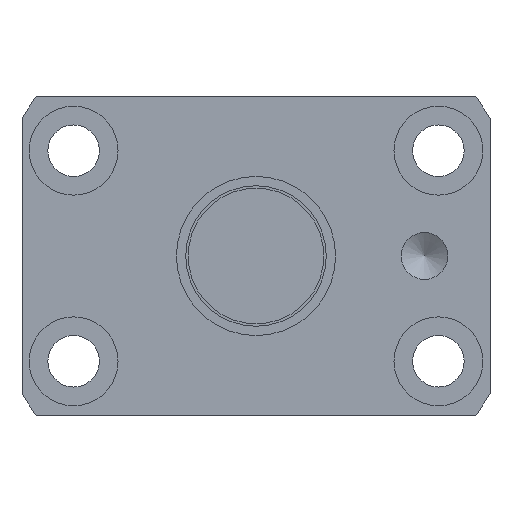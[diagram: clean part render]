
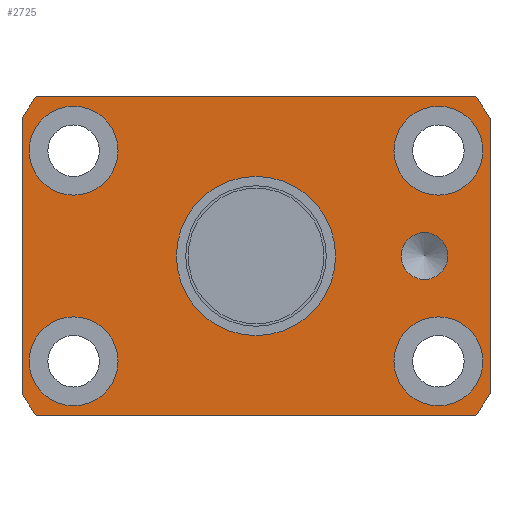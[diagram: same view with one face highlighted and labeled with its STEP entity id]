
A CAD part, left-side view. The second image highlights one B-rep face of the part: STEP entity #2725.
In plain terms, the highlighted planar face has unit normal (-1, 0, 0).
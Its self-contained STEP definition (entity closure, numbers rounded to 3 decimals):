
#6 = DIRECTION ( 'NONE',  ( 1., 0., 0. ) ) ;
#55 = CARTESIAN_POINT ( 'NONE',  ( 0., 19.486, 11.25 ) ) ;
#66 = EDGE_LOOP ( 'NONE', ( #2332 ) ) ;
#84 = AXIS2_PLACEMENT_3D ( 'NONE', #3165, #826, #2719 ) ;
#96 = CIRCLE ( 'NONE', #269, 8.5 ) ;
#118 = ORIENTED_EDGE ( 'NONE', *, *, #514, .F. ) ;
#134 = CARTESIAN_POINT ( 'NONE',  ( 0., 25., -14.697 ) ) ;
#189 = EDGE_CURVE ( 'NONE', #1209, #2256, #1595, .T. ) ;
#203 = EDGE_LOOP ( 'NONE', ( #3087 ) ) ;
#211 = CARTESIAN_POINT ( 'NONE',  ( 0., -14.736, 11.25 ) ) ;
#212 = EDGE_CURVE ( 'NONE', #785, #2198, #1858, .T. ) ;
#242 = CARTESIAN_POINT ( 'NONE',  ( 0., 0., 0. ) ) ;
#269 = AXIS2_PLACEMENT_3D ( 'NONE', #3282, #1770, #3032 ) ;
#279 = ORIENTED_EDGE ( 'NONE', *, *, #2192, .F. ) ;
#318 = AXIS2_PLACEMENT_3D ( 'NONE', #3109, #6, #3043 ) ;
#387 = CARTESIAN_POINT ( 'NONE',  ( 0., 19.486, -11.25 ) ) ;
#431 = DIRECTION ( 'NONE',  ( 0., 0., 1. ) ) ;
#461 = CARTESIAN_POINT ( 'NONE',  ( 0., 25., 14.697 ) ) ;
#497 = LINE ( 'NONE', #1506, #2458 ) ;
#514 = EDGE_CURVE ( 'NONE', #2198, #2122, #1490, .T. ) ;
#525 = CARTESIAN_POINT ( 'NONE',  ( 0., -14.736, -11.25 ) ) ;
#538 = LINE ( 'NONE', #3306, #2671 ) ;
#559 = CARTESIAN_POINT ( 'NONE',  ( 0., 24.236, -11.25 ) ) ;
#571 = DIRECTION ( 'NONE',  ( 0., 0., -1. ) ) ;
#586 = EDGE_CURVE ( 'NONE', #1847, #1847, #2776, .T. ) ;
#592 = ORIENTED_EDGE ( 'NONE', *, *, #189, .F. ) ;
#631 = ORIENTED_EDGE ( 'NONE', *, *, #952, .F. ) ;
#675 = VECTOR ( 'NONE', #1301, 1000. ) ;
#695 = AXIS2_PLACEMENT_3D ( 'NONE', #703, #3026, #718 ) ;
#703 = CARTESIAN_POINT ( 'NONE',  ( 0., 0., 0. ) ) ;
#710 = CARTESIAN_POINT ( 'NONE',  ( 0., 12.75, 0. ) ) ;
#718 = DIRECTION ( 'NONE',  ( 0., 1., 0. ) ) ;
#730 = ORIENTED_EDGE ( 'NONE', *, *, #2665, .F. ) ;
#780 = FACE_BOUND ( 'NONE', #1557, .T. ) ;
#785 = VERTEX_POINT ( 'NONE', #134 ) ;
#805 = CARTESIAN_POINT ( 'NONE',  ( 0., -25., -14.697 ) ) ;
#821 = EDGE_CURVE ( 'NONE', #1064, #1064, #1964, .T. ) ;
#826 = DIRECTION ( 'NONE',  ( 1., 0., 0. ) ) ;
#843 = CARTESIAN_POINT ( 'NONE',  ( 0., -18., 2.5 ) ) ;
#865 = EDGE_LOOP ( 'NONE', ( #1410 ) ) ;
#918 = DIRECTION ( 'NONE',  ( -1., 0., 0. ) ) ;
#938 = ORIENTED_EDGE ( 'NONE', *, *, #212, .F. ) ;
#952 = EDGE_CURVE ( 'NONE', #1431, #1289, #538, .T. ) ;
#958 = FACE_OUTER_BOUND ( 'NONE', #1836, .T. ) ;
#973 = CARTESIAN_POINT ( 'NONE',  ( 0., 0., 0. ) ) ;
#1011 = DIRECTION ( 'NONE',  ( 0., 0., 1. ) ) ;
#1025 = DIRECTION ( 'NONE',  ( 0., 1., 0. ) ) ;
#1032 = FACE_BOUND ( 'NONE', #1691, .T. ) ;
#1033 = EDGE_LOOP ( 'NONE', ( #3213 ) ) ;
#1051 = DIRECTION ( 'NONE',  ( 0., 1., 0. ) ) ;
#1062 = CIRCLE ( 'NONE', #2946, 4.75 ) ;
#1064 = VERTEX_POINT ( 'NONE', #843 ) ;
#1087 = CARTESIAN_POINT ( 'NONE',  ( 0., 24.236, 11.25 ) ) ;
#1115 = EDGE_CURVE ( 'NONE', #2122, #1322, #497, .T. ) ;
#1127 = ORIENTED_EDGE ( 'NONE', *, *, #1615, .T. ) ;
#1170 = AXIS2_PLACEMENT_3D ( 'NONE', #973, #2817, #2799 ) ;
#1202 = EDGE_CURVE ( 'NONE', #2555, #2555, #1599, .T. ) ;
#1209 = VERTEX_POINT ( 'NONE', #2347 ) ;
#1234 = ORIENTED_EDGE ( 'NONE', *, *, #1115, .F. ) ;
#1264 = PLANE ( 'NONE',  #3117 ) ;
#1289 = VERTEX_POINT ( 'NONE', #2522 ) ;
#1293 = AXIS2_PLACEMENT_3D ( 'NONE', #387, #2459, #1933 ) ;
#1301 = DIRECTION ( 'NONE',  ( 0., 0., 1. ) ) ;
#1322 = VERTEX_POINT ( 'NONE', #2011 ) ;
#1332 = AXIS2_PLACEMENT_3D ( 'NONE', #55, #2111, #1025 ) ;
#1410 = ORIENTED_EDGE ( 'NONE', *, *, #1202, .T. ) ;
#1431 = VERTEX_POINT ( 'NONE', #2674 ) ;
#1490 = CIRCLE ( 'NONE', #2126, 29. ) ;
#1506 = CARTESIAN_POINT ( 'NONE',  ( 0., 23.495, 17. ) ) ;
#1557 = EDGE_LOOP ( 'NONE', ( #1127 ) ) ;
#1595 = LINE ( 'NONE', #1844, #2352 ) ;
#1599 = CIRCLE ( 'NONE', #84, 4.75 ) ;
#1615 = EDGE_CURVE ( 'NONE', #3313, #3313, #1062, .T. ) ;
#1691 = EDGE_LOOP ( 'NONE', ( #2904 ) ) ;
#1724 = CARTESIAN_POINT ( 'NONE',  ( 0., -18., 0. ) ) ;
#1770 = DIRECTION ( 'NONE',  ( 1., 0., 0. ) ) ;
#1836 = EDGE_LOOP ( 'NONE', ( #631, #2640, #592, #730, #1234, #118, #938, #279 ) ) ;
#1844 = CARTESIAN_POINT ( 'NONE',  ( 0., -25., 14.697 ) ) ;
#1847 = VERTEX_POINT ( 'NONE', #1087 ) ;
#1858 = LINE ( 'NONE', #2307, #675 ) ;
#1933 = DIRECTION ( 'NONE',  ( 0., 1., 0. ) ) ;
#1964 = CIRCLE ( 'NONE', #2358, 2.5 ) ;
#2011 = CARTESIAN_POINT ( 'NONE',  ( 0., -23.495, 17. ) ) ;
#2013 = CARTESIAN_POINT ( 'NONE',  ( 0., -19.486, -11.25 ) ) ;
#2014 = FACE_BOUND ( 'NONE', #66, .T. ) ;
#2053 = FACE_BOUND ( 'NONE', #203, .T. ) ;
#2088 = CIRCLE ( 'NONE', #1293, 4.75 ) ;
#2111 = DIRECTION ( 'NONE',  ( 1., 0., 0. ) ) ;
#2122 = VERTEX_POINT ( 'NONE', #3238 ) ;
#2126 = AXIS2_PLACEMENT_3D ( 'NONE', #242, #3079, #2337 ) ;
#2192 = EDGE_CURVE ( 'NONE', #1289, #785, #3008, .T. ) ;
#2198 = VERTEX_POINT ( 'NONE', #461 ) ;
#2256 = VERTEX_POINT ( 'NONE', #805 ) ;
#2307 = CARTESIAN_POINT ( 'NONE',  ( 0., 25., -14.697 ) ) ;
#2329 = DIRECTION ( 'NONE',  ( 0., -1., 0. ) ) ;
#2332 = ORIENTED_EDGE ( 'NONE', *, *, #586, .T. ) ;
#2337 = DIRECTION ( 'NONE',  ( 0., 1., 0. ) ) ;
#2339 = VERTEX_POINT ( 'NONE', #2875 ) ;
#2347 = CARTESIAN_POINT ( 'NONE',  ( 0., -25., 14.697 ) ) ;
#2352 = VECTOR ( 'NONE', #571, 1000. ) ;
#2358 = AXIS2_PLACEMENT_3D ( 'NONE', #1724, #918, #431 ) ;
#2458 = VECTOR ( 'NONE', #2329, 1000. ) ;
#2459 = DIRECTION ( 'NONE',  ( 1., 0., 0. ) ) ;
#2522 = CARTESIAN_POINT ( 'NONE',  ( 0., 23.495, -17. ) ) ;
#2545 = EDGE_CURVE ( 'NONE', #2637, #2637, #2088, .T. ) ;
#2555 = VERTEX_POINT ( 'NONE', #211 ) ;
#2626 = CIRCLE ( 'NONE', #1170, 29. ) ;
#2637 = VERTEX_POINT ( 'NONE', #559 ) ;
#2640 = ORIENTED_EDGE ( 'NONE', *, *, #2752, .F. ) ;
#2665 = EDGE_CURVE ( 'NONE', #1322, #1209, #2626, .T. ) ;
#2671 = VECTOR ( 'NONE', #1051, 1000. ) ;
#2674 = CARTESIAN_POINT ( 'NONE',  ( 0., -23.495, -17. ) ) ;
#2706 = EDGE_CURVE ( 'NONE', #2339, #2339, #96, .T. ) ;
#2719 = DIRECTION ( 'NONE',  ( 0., 1., 0. ) ) ;
#2725 = ADVANCED_FACE ( 'NONE', ( #1032, #2053, #3299, #780, #2014, #958, #3050 ), #1264, .T. ) ;
#2752 = EDGE_CURVE ( 'NONE', #2256, #1431, #2794, .T. ) ;
#2776 = CIRCLE ( 'NONE', #1332, 4.75 ) ;
#2794 = CIRCLE ( 'NONE', #318, 29. ) ;
#2796 = DIRECTION ( 'NONE',  ( 0., 1., 0. ) ) ;
#2799 = DIRECTION ( 'NONE',  ( 0., 1., 0. ) ) ;
#2817 = DIRECTION ( 'NONE',  ( 1., 0., 0. ) ) ;
#2875 = CARTESIAN_POINT ( 'NONE',  ( 0., 8.5, 0. ) ) ;
#2904 = ORIENTED_EDGE ( 'NONE', *, *, #821, .F. ) ;
#2946 = AXIS2_PLACEMENT_3D ( 'NONE', #2013, #3049, #2796 ) ;
#3008 = CIRCLE ( 'NONE', #695, 29. ) ;
#3026 = DIRECTION ( 'NONE',  ( 1., 0., 0. ) ) ;
#3032 = DIRECTION ( 'NONE',  ( 0., 1., 0. ) ) ;
#3043 = DIRECTION ( 'NONE',  ( 0., 1., 0. ) ) ;
#3049 = DIRECTION ( 'NONE',  ( 1., 0., 0. ) ) ;
#3050 = FACE_BOUND ( 'NONE', #1033, .T. ) ;
#3079 = DIRECTION ( 'NONE',  ( 1., 0., 0. ) ) ;
#3087 = ORIENTED_EDGE ( 'NONE', *, *, #2545, .T. ) ;
#3109 = CARTESIAN_POINT ( 'NONE',  ( 0., 0., 0. ) ) ;
#3117 = AXIS2_PLACEMENT_3D ( 'NONE', #710, #3317, #1011 ) ;
#3165 = CARTESIAN_POINT ( 'NONE',  ( 0., -19.486, 11.25 ) ) ;
#3213 = ORIENTED_EDGE ( 'NONE', *, *, #2706, .T. ) ;
#3238 = CARTESIAN_POINT ( 'NONE',  ( 0., 23.495, 17. ) ) ;
#3282 = CARTESIAN_POINT ( 'NONE',  ( 0., 0., 0. ) ) ;
#3299 = FACE_BOUND ( 'NONE', #865, .T. ) ;
#3306 = CARTESIAN_POINT ( 'NONE',  ( 0., -23.495, -17. ) ) ;
#3313 = VERTEX_POINT ( 'NONE', #525 ) ;
#3317 = DIRECTION ( 'NONE',  ( -1., 0., 0. ) ) ;
